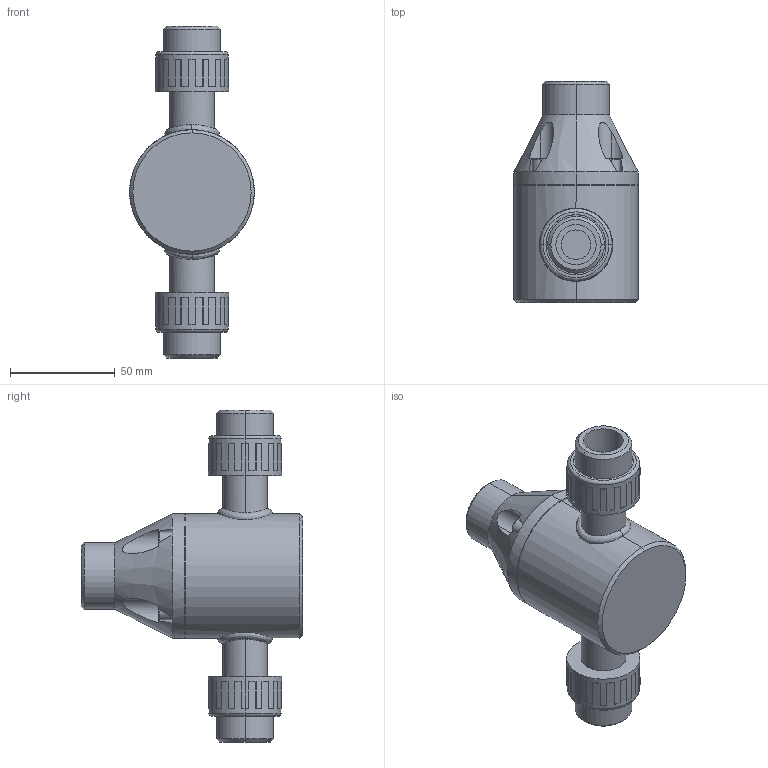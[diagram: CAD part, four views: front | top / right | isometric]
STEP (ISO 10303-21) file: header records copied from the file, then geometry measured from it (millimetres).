
FILE_DESCRIPTION (( 'STEP AP203' ), '1' );
FILE_NAME ('MBP0500-UNION.STEP', '2016-09-14T08:28:15', ( '' ), ( '' ), 'SwSTEP 2.0', 'SolidWorks 2014', '' );
FILE_SCHEMA (( 'CONFIG_CONTROL_DESIGN' ));
Length unit declared in the file: inch
Products named in the file (2): MBP0500-UNION
Bounding box: 59.44 x 105.41 x 158.24 mm (x, y, z)
Volume: 278593.3 mm3; surface area: 40088.2 mm2
Topology: 1 solids, 1 shells, 294 faces, 770 edges, 500 vertices
Faces by surface type: plane 208, cylinder 54, cone 22, bspline 6, torus 4
Entity records: 11277 total; most frequent: CARTESIAN_POINT 3723, DIRECTION 1584, ORIENTED_EDGE 1540, EDGE_CURVE 770, AXIS2_PLACEMENT_3D 560, VERTEX_POINT 500, LINE 464, VECTOR 464
